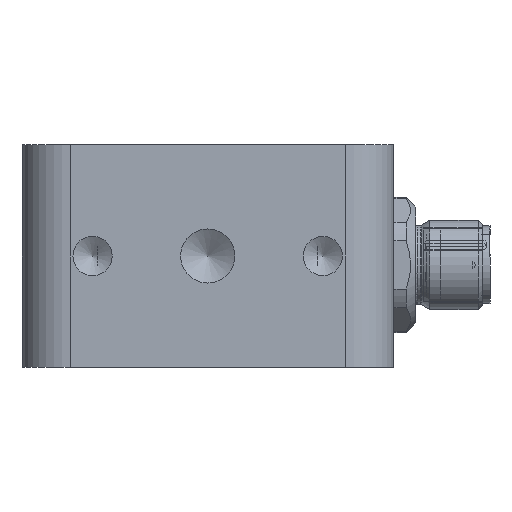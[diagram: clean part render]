
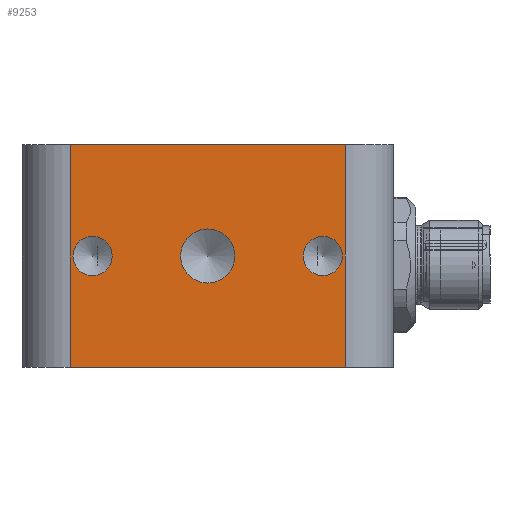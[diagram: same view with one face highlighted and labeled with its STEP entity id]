
A CAD part, left-side view. The second image highlights one B-rep face of the part: STEP entity #9253.
In plain terms, the highlighted planar face has unit normal (-1, 0, 0).
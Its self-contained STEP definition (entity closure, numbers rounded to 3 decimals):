
#284=FACE_BOUND('',#1601,.T.);
#285=FACE_BOUND('',#1602,.T.);
#286=FACE_BOUND('',#1603,.T.);
#583=PLANE('',#9951);
#1047=FACE_OUTER_BOUND('',#1600,.T.);
#1600=EDGE_LOOP('',(#7293,#7294,#7295,#7296));
#1601=EDGE_LOOP('',(#7297));
#1602=EDGE_LOOP('',(#7298));
#1603=EDGE_LOOP('',(#7299));
#2277=LINE('',#17247,#2927);
#2278=LINE('',#17249,#2928);
#2279=LINE('',#17251,#2929);
#2280=LINE('',#17252,#2930);
#2927=VECTOR('',#11593,1000.);
#2928=VECTOR('',#11594,1000.);
#2929=VECTOR('',#11595,1000.);
#2930=VECTOR('',#11596,1000.);
#3466=CIRCLE('',#9940,2.642);
#3468=CIRCLE('',#9944,2.642);
#3470=CIRCLE('',#9948,3.642);
#4213=VERTEX_POINT('',#17214);
#4216=VERTEX_POINT('',#17223);
#4219=VERTEX_POINT('',#17232);
#4223=VERTEX_POINT('',#17245);
#4224=VERTEX_POINT('',#17246);
#4225=VERTEX_POINT('',#17248);
#4226=VERTEX_POINT('',#17250);
#5340=EDGE_CURVE('',#4213,#4213,#3466,.T.);
#5344=EDGE_CURVE('',#4216,#4216,#3468,.T.);
#5348=EDGE_CURVE('',#4219,#4219,#3470,.T.);
#5353=EDGE_CURVE('',#4223,#4224,#2277,.T.);
#5354=EDGE_CURVE('',#4224,#4225,#2278,.T.);
#5355=EDGE_CURVE('',#4226,#4225,#2279,.T.);
#5356=EDGE_CURVE('',#4226,#4223,#2280,.T.);
#7293=ORIENTED_EDGE('',*,*,#5353,.T.);
#7294=ORIENTED_EDGE('',*,*,#5354,.T.);
#7295=ORIENTED_EDGE('',*,*,#5355,.F.);
#7296=ORIENTED_EDGE('',*,*,#5356,.T.);
#7297=ORIENTED_EDGE('',*,*,#5340,.F.);
#7298=ORIENTED_EDGE('',*,*,#5344,.F.);
#7299=ORIENTED_EDGE('',*,*,#5348,.F.);
#9253=ADVANCED_FACE('',(#1047,#284,#285,#286),#583,.F.);
#9940=AXIS2_PLACEMENT_3D('',#17216,#11561,#11562);
#9944=AXIS2_PLACEMENT_3D('',#17225,#11571,#11572);
#9948=AXIS2_PLACEMENT_3D('',#17234,#11581,#11582);
#9951=AXIS2_PLACEMENT_3D('',#17244,#11591,#11592);
#11561=DIRECTION('center_axis',(-1.,0.,0.));
#11562=DIRECTION('ref_axis',(0.,-1.,0.));
#11571=DIRECTION('center_axis',(-1.,0.,0.));
#11572=DIRECTION('ref_axis',(0.,-1.,0.));
#11581=DIRECTION('center_axis',(-1.,0.,0.));
#11582=DIRECTION('ref_axis',(0.,-1.,0.));
#11591=DIRECTION('center_axis',(1.,0.,0.));
#11592=DIRECTION('ref_axis',(0.,1.,0.));
#11593=DIRECTION('',(0.,1.,0.));
#11594=DIRECTION('',(0.,0.,-1.));
#11595=DIRECTION('',(0.,1.,0.));
#11596=DIRECTION('',(0.,0.,1.));
#17214=CARTESIAN_POINT('',(-501.,68.142,87.));
#17216=CARTESIAN_POINT('Origin',(-501.,65.5,87.));
#17223=CARTESIAN_POINT('',(-501.,37.142,87.));
#17225=CARTESIAN_POINT('Origin',(-501.,34.5,87.));
#17232=CARTESIAN_POINT('',(-501.,53.642,87.));
#17234=CARTESIAN_POINT('Origin',(-501.,50.,87.));
#17244=CARTESIAN_POINT('Origin',(-501.,25.,72.));
#17245=CARTESIAN_POINT('',(-501.,31.5,102.));
#17246=CARTESIAN_POINT('',(-501.,68.5,102.));
#17247=CARTESIAN_POINT('',(-501.,25.,102.));
#17248=CARTESIAN_POINT('',(-501.,68.5,72.));
#17249=CARTESIAN_POINT('',(-501.,68.5,72.));
#17250=CARTESIAN_POINT('',(-501.,31.5,72.));
#17251=CARTESIAN_POINT('',(-501.,25.,72.));
#17252=CARTESIAN_POINT('',(-501.,31.5,102.));
